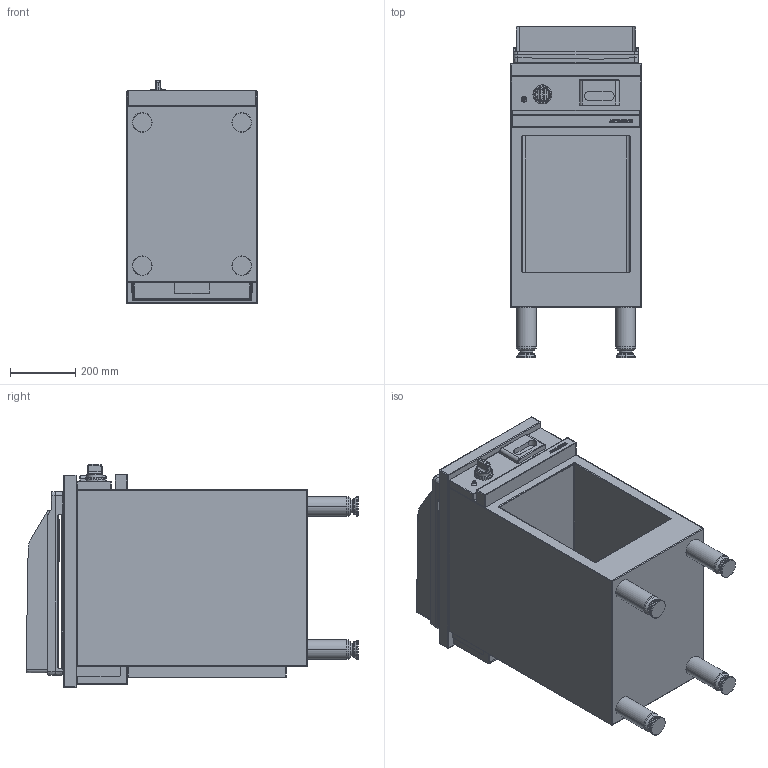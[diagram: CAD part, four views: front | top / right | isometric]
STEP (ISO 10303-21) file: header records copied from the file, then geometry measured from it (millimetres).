
FILE_DESCRIPTION((''),'2;1');
FILE_NAME('CMG410GL_EXPORT_STEP_ASM','2017-11-22T',('r.avril'),(''),'PRO/ENGINEER BY PARAMETRIC TECHNOLOGY CORPORATION, 2014200','PRO/ENGINEER BY PARAMETRIC TECHNOLOGY CORPORATION, 2014200','');
FILE_SCHEMA(('AP203_CONFIGURATION_CONTROLLED_3D_DESIGN_OF_MECHANICAL_PARTS_AND_ASSEMBLIES_MIM_LF { 1 0 10303 403 2 1 2 }'));
Length unit declared in the file: millimetre
Products named in the file (10): MODULES_AMB_400_EXPORT_STEP; TABLE_410_GRILLADE; TABLE_410_GRILLADE_ASM; ALLUMEUR_EXPORT_STEP; TIROIR_GRILLADE_EXPORT_STEP; MANETTE_AMB_EXPORT_STEP; 65062007; 50288400; 90000921_ASM; CMG410GL_EXPORT_STEP_ASM
Assembly tree (9 placements, depth 3):
  CMG410GL_EXPORT_STEP_ASM
    MODULES_AMB_400_EXPORT_STEP
    TABLE_410_GRILLADE_ASM
      TABLE_410_GRILLADE
    ALLUMEUR_EXPORT_STEP
    TIROIR_GRILLADE_EXPORT_STEP
    MANETTE_AMB_EXPORT_STEP
    90000921_ASM
      65062007
      50288400
Bounding box: 400 x 1015.03 x 682.5 mm (x, y, z)
Volume: 59639221.5 mm3; surface area: 4951416.5 mm2
Topology: 14 solids, 46 shells, 1016 faces, 2889 edges, 2196 vertices
Faces by surface type: cylinder 364, plane 272, cone 116, torus 108, bspline 98, sphere 58
Entity records: 47737 total; most frequent: CARTESIAN_POINT 13591, DIRECTION 5357, ORIENTED_EDGE 4753, EDGE_CURVE 2627, AXIS2_PLACEMENT_3D 2022, PRESENTATION_STYLE_ASSIGNMENT 1844, STYLED_ITEM 1844, VERTEX_POINT 1712
